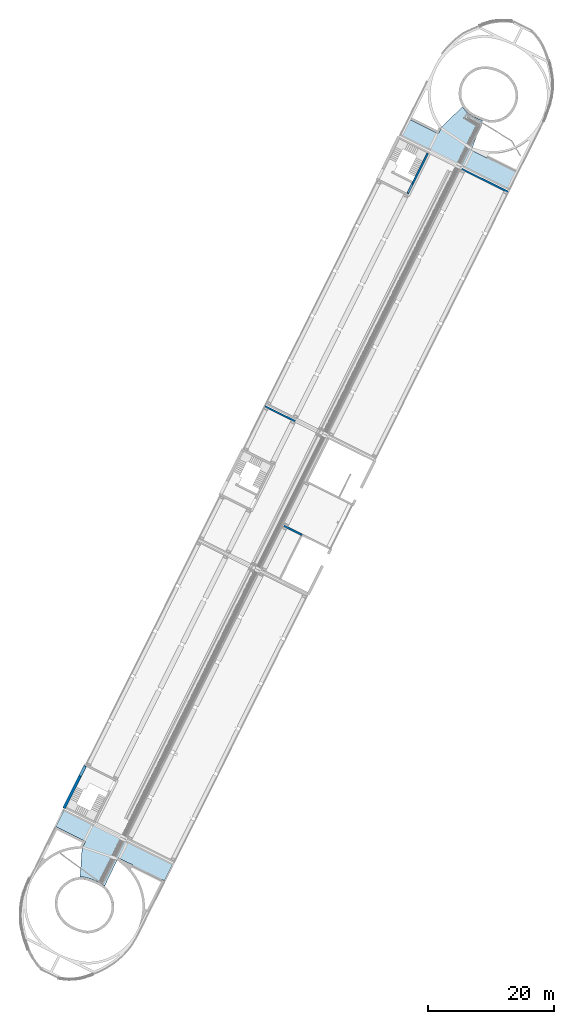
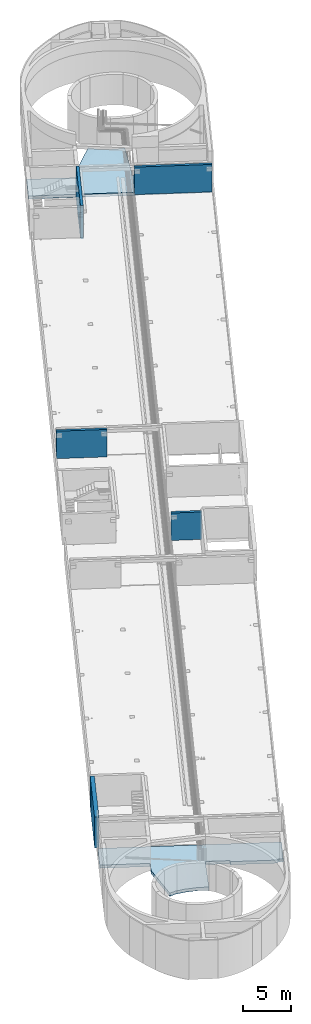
# One storey, part 12 of 47: 5 walls, 2 slabs.
"""IFC2X3 building model written with IfcOpenShell, lengths in metres."""

import ifcopenshell
import ifcopenshell.guid

model = None  # the IFC model being written
_history = None  # IfcOwnerHistory: only IFC2X3 demands one
_inside = {}  # id of a spatial element -> (the spatial element, [elements in it])
_under = {}  # id of a project, library or spatial element -> (it, [spatial elements below it])
_declared = {}  # id of a project -> (the project, [libraries it declares])
_typed = {}  # id of a type object -> (the type object, [elements of that type])
_made_of = {}  # id of a material, layer set ... -> (it, [elements and type objects made of it])


def new_model(schema):
    """Start an empty IFC model of exactly this schema.

    Asked for "IFC4X3", IfcOpenShell would pick the latest addendum, in which some entities
    have other attributes; the version numbers below select the first issue.
    IFC2X3 requires an IfcOwnerHistory on every rooted entity: one is made here for all.
    """
    global model, _history
    if schema == "IFC4X3":
        model = ifcopenshell.file(schema_version=(4, 3, 0, 0))
    else:
        model = ifcopenshell.file(schema=schema)
    _inside.clear()
    _under.clear()
    _declared.clear()
    _typed.clear()
    _made_of.clear()
    _history = None
    if model.schema == "IFC2X3":
        org = make("IfcOrganization", Name="unknown")
        user = make(
            "IfcPersonAndOrganization",
            ThePerson=make("IfcPerson", FamilyName="unknown"),
            TheOrganization=org,
        )
        app = make(
            "IfcApplication",
            ApplicationDeveloper=org,
            Version="unknown",
            ApplicationFullName="unknown",
            ApplicationIdentifier="unknown",
        )
        _history = make(
            "IfcOwnerHistory",
            OwningUser=user,
            OwningApplication=app,
            ChangeAction="ADDED",
            CreationDate=0,
        )
    return model


def make(cls, **values):
    """One entity of the class cls with the attributes given. An attribute that is None is left unset."""
    return model.create_entity(
        cls, **{name: value for name, value in values.items() if value is not None}
    )


def entity(cls, *values):
    """Any entity or typed value of the class cls, its attributes in the order of the schema. None: left unset."""
    e = model.create_entity(cls)
    for i, value in enumerate(values):
        if value is not None:
            e[i] = value
    return e


def rooted(cls, **values):
    """An entity with a GlobalId (a new one), such as an element, a storey or a relation."""
    return make(cls, GlobalId=ifcopenshell.guid.new(), OwnerHistory=_history, **values)


def si_unit(unit_type, name, prefix=None):
    """IfcSIUnit, for example si_unit("LENGTHUNIT", "METRE", prefix="MILLI")."""
    return make("IfcSIUnit", UnitType=unit_type, Prefix=prefix, Name=name)


def converted_unit(unit_type, name, factor, base, dimensions=None, offset=None):
    """IfcConversionBasedUnit, such as the inch: factor (a typed value) times the base unit."""
    return make(
        "IfcConversionBasedUnit"
        if offset is None
        else "IfcConversionBasedUnitWithOffset",
        ConversionOffset=offset,
        Dimensions=None
        if dimensions is None
        else entity("IfcDimensionalExponents", *dimensions),
        UnitType=unit_type,
        Name=name,
        ConversionFactor=make(
            "IfcMeasureWithUnit", ValueComponent=factor, UnitComponent=base
        ),
    )


def derived_unit(unit_type, elements):
    """IfcDerivedUnit: a product of units, each with its exponent."""
    return make(
        "IfcDerivedUnit",
        Elements=[
            make("IfcDerivedUnitElement", Unit=unit, Exponent=power)
            for unit, power in elements
        ],
        UnitType=unit_type,
    )


def assignment(units):
    """IfcUnitAssignment: the units of a project."""
    return None if units is None else make("IfcUnitAssignment", Units=units)


def point(xyz):
    """IfcCartesianPoint."""
    return None if xyz is None else make("IfcCartesianPoint", Coordinates=xyz)


def direction(xyz):
    """IfcDirection."""
    return None if xyz is None else make("IfcDirection", DirectionRatios=xyz)


def frame(location, z_axis=None, x_axis=None):
    """IfcAxis2Placement3D, a coordinate frame: its origin and axes. An axis left out is left unset."""
    return make(
        "IfcAxis2Placement3D",
        Location=point(location),
        Axis=direction(z_axis),
        RefDirection=direction(x_axis),
    )


def origin():
    """The frame at (0, 0, 0) with its axes left unset."""
    return frame((0.0, 0.0, 0.0))


def place(relative_to, where):
    """IfcLocalPlacement: puts the frame where relative to a parent placement (None: the world)."""
    return make(
        "IfcLocalPlacement", PlacementRelTo=relative_to, RelativePlacement=where
    )


def context(
    kind, dimensions, precision=None, world=None, true_north=None, identifier=None
):
    """IfcGeometricRepresentationContext, for example the 3D "Model" context."""
    return make(
        "IfcGeometricRepresentationContext",
        ContextIdentifier=identifier,
        ContextType=kind,
        CoordinateSpaceDimension=dimensions,
        Precision=precision,
        WorldCoordinateSystem=world,
        TrueNorth=true_north,
    )


def subcontext(parent, identifier, kind, view, scale=None):
    """IfcGeometricRepresentationSubContext, for example "Body" below "Model"."""
    return make(
        "IfcGeometricRepresentationSubContext",
        ContextIdentifier=identifier,
        ContextType=kind,
        ParentContext=parent,
        TargetScale=scale,
        TargetView=view,
    )


def project(units=None, contexts=None):
    """IfcProject with its units and contexts."""
    return rooted(
        "IfcProject",
        Name="project",
        RepresentationContexts=contexts,
        UnitsInContext=assignment(units),
    )


def spatial(cls, under=None, at=None, **own):
    """A site, building, storey or space (cls), placed at a placement, below another one or the project."""
    s = rooted(cls, ObjectPlacement=at, **own)
    if under is not None:
        _under.setdefault(under.id(), (under, []))[1].append(s)
    return s


def faces_of(points, faces, orient=None, outer=None):
    """IfcFace entities. A face is a list of loops; a loop is a list of indices into points, from 0.

    orient and outer hold one flag for each loop. By default every Orientation is true, the
    first loop of a face is its IfcFaceOuterBound and the others are IfcFaceBound.
    """
    made = []
    for i, loops in enumerate(faces):
        bounds = []
        for j, loop in enumerate(loops):
            is_outer = j == 0 if outer is None else outer[i][j]
            bounds.append(
                make(
                    "IfcFaceOuterBound" if is_outer else "IfcFaceBound",
                    Bound=make("IfcPolyLoop", Polygon=[points[k] for k in loop]),
                    Orientation=True if orient is None else orient[i][j],
                )
            )
        made.append(make("IfcFace", Bounds=bounds))
    return made


def faceted_brep(points, faces, orient=None, outer=None, voids=None):
    """IfcFacetedBrep: a solid bounded by flat faces; with voids (closed shells), ...WithVoids."""
    shared = [point(p) for p in points]
    hull = make("IfcClosedShell", CfsFaces=faces_of(shared, faces, orient, outer))
    if voids is None:
        return make("IfcFacetedBrep", Outer=hull)
    return make(
        "IfcFacetedBrepWithVoids",
        Outer=hull,
        Voids=[
            make(cls, CfsFaces=faces_of(shared, fs, o, b)) for cls, fs, o, b in voids
        ],
    )


def shape(context_of_items, identifier, shape_type, items):
    """IfcShapeRepresentation: the items that make up one representation, for example the "Body"."""
    return make(
        "IfcShapeRepresentation",
        ContextOfItems=context_of_items,
        RepresentationIdentifier=identifier,
        RepresentationType=shape_type,
        Items=items,
    )


def material(Name=None, Category=None):
    """IfcMaterial."""
    return make("IfcMaterial", Name=Name, Category=Category)


def layer(
    of_material, thickness, ventilated=None, Name=None, Category=None, Priority=None
):
    """IfcMaterialLayer: one layer of a wall or slab, of a material (None: an air gap)."""
    return make(
        "IfcMaterialLayer",
        Material=of_material,
        LayerThickness=thickness,
        IsVentilated=ventilated,
        Name=Name,
        Category=Category,
        Priority=Priority,
    )


def layer_set(layers, Name=None):
    """IfcMaterialLayerSet."""
    return make("IfcMaterialLayerSet", MaterialLayers=layers, LayerSetName=Name)


def made_of(thing, what):
    """Note that an element or type object is made of a material, layer set ...; save() writes the relation."""
    if what is not None:
        _made_of.setdefault(what.id(), (what, []))[1].append(thing)
    return thing


def type_object(cls, material=None, **own):
    """A type object (cls), such as IfcWallType, which elements share."""
    return made_of(rooted(cls, **own), material)


def element(
    cls,
    number,
    at=None,
    inside=None,
    cuts=None,
    type_object=None,
    material=None,
    context=None,
    identifier="Body",
    shape_type=None,
    held_by="IfcProductDefinitionShape",
    body=None,
    shapes=None,
    **own,
):
    """One element of the class cls, such as IfcWall. Its Tag is "e" and its number.

    at: its placement. inside: the storey or other place that contains it. cuts: it is an
    opening in that element (IfcRelVoidsElement). A single representation is given by context,
    identifier, shape_type and body (its items); several are given by shapes. held_by: the class
    of the entity that holds the representations. save() writes the other relations.
    """
    e = rooted(cls, Tag="e%d" % number, ObjectPlacement=at, **own)
    if body is not None:
        shapes = [shape(context, identifier, shape_type, body)]
    if shapes is not None:
        e.Representation = make(held_by, Representations=shapes)
    if inside is not None:
        _inside.setdefault(inside.id(), (inside, []))[1].append(e)
    if cuts is not None:
        rooted(
            "IfcRelVoidsElement", RelatingBuildingElement=cuts, RelatedOpeningElement=e
        )
    if type_object is not None:
        _typed.setdefault(type_object.id(), (type_object, []))[1].append(e)
    return made_of(e, material)


def aggregate(whole, parts):
    """IfcRelAggregates: a whole, such as a stair, and the parts it consists of."""
    return rooted("IfcRelAggregates", RelatingObject=whole, RelatedObjects=parts)


def save(model, path):
    """Write the relations noted so far, then the file.

    IfcRelAggregates (storeys below a building ...), IfcRelContainedInSpatialStructure (elements
    in a storey), IfcRelDefinesByType, IfcRelAssociatesMaterial and IfcRelDeclares: one each for
    every whole, place, type object, material and project.
    """
    for whole, parts in _under.values():
        aggregate(whole, parts)
    for where, things in _inside.values():
        rooted(
            "IfcRelContainedInSpatialStructure",
            RelatedElements=things,
            RelatingStructure=where,
        )
    for kind, things in _typed.values():
        rooted("IfcRelDefinesByType", RelatedObjects=things, RelatingType=kind)
    for what, things in _made_of.values():
        rooted("IfcRelAssociatesMaterial", RelatedObjects=things, RelatingMaterial=what)
    for by, libraries in _declared.values():
        rooted("IfcRelDeclares", RelatingContext=by, RelatedDefinitions=libraries)
    model.write(path)


model = new_model("IFC2X3")

# Units and contexts
model_context = context("Model", 3, precision=1e-05, world=origin(), true_north=direction((0.894925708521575, 0.446215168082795)))
context_of_model = context(None, 3, precision=1e-05, world=origin(), true_north=direction((0.894925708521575, 0.446215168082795)))
body_context = subcontext(model_context, "Body", "Model", "MODEL_VIEW")
ifc_project = project(units=[si_unit("LENGTHUNIT", "METRE"), si_unit("AREAUNIT", "SQUARE_METRE"), si_unit("VOLUMEUNIT", "CUBIC_METRE"), converted_unit("PLANEANGLEUNIT", "DEGREE", entity("IfcRatioMeasure", 0.0174532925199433), si_unit("PLANEANGLEUNIT", "RADIAN"), dimensions=[0, 0, 0, 0, 0, 0, 0]), si_unit("MASSUNIT", "GRAM", prefix="KILO"), si_unit("TIMEUNIT", "SECOND"), si_unit("FREQUENCYUNIT", "HERTZ"), si_unit("THERMODYNAMICTEMPERATUREUNIT", "DEGREE_CELSIUS"), derived_unit("THERMALTRANSMITTANCEUNIT", [(si_unit("MASSUNIT", "GRAM", prefix="KILO"), 1), (si_unit("THERMODYNAMICTEMPERATUREUNIT", "KELVIN"), -1), (si_unit("TIMEUNIT", "SECOND"), -3)]), derived_unit("VOLUMETRICFLOWRATEUNIT", [(si_unit("LENGTHUNIT", "METRE"), 3), (si_unit("TIMEUNIT", "SECOND"), -1)]), si_unit("ELECTRICCURRENTUNIT", "AMPERE"), si_unit("ELECTRICVOLTAGEUNIT", "VOLT"), si_unit("POWERUNIT", "WATT"), si_unit("FORCEUNIT", "NEWTON", prefix="KILO"), si_unit("ILLUMINANCEUNIT", "LUX"), si_unit("LUMINOUSFLUXUNIT", "LUMEN"), si_unit("LUMINOUSINTENSITYUNIT", "CANDELA"), si_unit("PRESSUREUNIT", "PASCAL")], contexts=[model_context, context_of_model])

# Site, building, storey
site_placement = place(None, frame((218.228324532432, 584.720189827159, 0.0), z_axis=(0.0, 0.0, 1.0), x_axis=(0.446215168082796, 0.894925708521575, 0.0)))
site = spatial("IfcSite", under=ifc_project, at=site_placement, Name="Default", CompositionType="ELEMENT")
building_placement = place(site_placement, origin())
building = spatial("IfcBuilding", under=site, at=building_placement, CompositionType="ELEMENT")
storey_placement = place(building_placement, frame((0.0, 0.0, 4.69)))
storey = spatial("IfcBuildingStorey", under=building, at=storey_placement, Name="1 - Piano Primo", CompositionType="ELEMENT", Elevation=4.69)

# Slabs
slab_1_placement = place(storey_placement, origin())
element("IfcSlab", 1, at=slab_1_placement, inside=storey, Name="Pavimento:In opera Cementizio - 40 cm", ObjectType="Pavimento:In opera Cementizio - 40 cm", PredefinedType="FLOOR", context=body_context, shape_type="Brep", body=[
    faceted_brep([(-60.6594493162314, -13.2010845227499, -0.400000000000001), (-60.6594493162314, 6.12047223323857, -0.400000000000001), (-60.6594493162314, 6.12047223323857, 0.0), (-60.6594493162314, -13.2010845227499, 0.0), (-63.7294493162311, 6.10459798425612, -0.400000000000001), (-63.7294493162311, 6.10459798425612, 0.0), (-63.7294493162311, -13.2010845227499, -0.400000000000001), (-63.7294493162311, -13.2010845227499, 0.0), (-69.1836388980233, -0.930237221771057, -0.1), (-67.70591129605, -0.318887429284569, -0.0646446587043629), (-66.3549528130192, 0.240016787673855, -0.0323223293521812), (-65.0039943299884, 0.798921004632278, 0.0), (-65.0039943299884, 0.798921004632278, -0.400000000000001), (-66.4817219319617, 0.18757121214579, -0.435355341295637), (-67.70591129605, -0.318887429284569, -0.464644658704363), (-69.1836388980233, -0.930237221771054, -0.500000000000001), (-63.7294493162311, 0.798921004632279, -0.400000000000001), (-63.7294493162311, 0.798921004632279, 0.0), (-63.7294493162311, -12.6510769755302, -0.400000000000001), (-63.7294493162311, -12.6510769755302, 0.0), (-63.7294493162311, -5.00107899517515, -0.400000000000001), (-63.7294493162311, -7.61107899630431, -0.400000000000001), (-63.7294493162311, -7.61107899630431, 0.0), (-63.7294493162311, -5.00107899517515, 0.0), (-63.9294493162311, -12.6516191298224, -0.400000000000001), (-63.9294493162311, -12.6516191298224, 0.0), (-63.9294493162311, -7.61107899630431, -0.400000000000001), (-63.9294493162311, -7.61107899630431, 0.0), (-64.1831034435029, -5.00107899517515, -0.400000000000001), (-64.1831034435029, -5.00107899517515, 0.0), (-64.1833621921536, -5.00284830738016, 0.0), (-64.1836209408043, -5.00461761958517, 0.0), (-64.183879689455, -5.00638693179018, 0.0), (-64.1841384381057, -5.00815624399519, 0.0), (-64.1841384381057, -5.00815624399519, -0.400000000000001), (-64.183879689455, -5.00638693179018, -0.400000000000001), (-64.1836209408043, -5.00461761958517, -0.400000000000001), (-64.1833621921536, -5.00284830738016, -0.400000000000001), (-65.9116934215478, -5.03542342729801, 0.0688685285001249), (-68.6994069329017, -5.07942381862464, 0.18), (-68.6994069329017, -5.07942381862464, -0.22), (-65.9116925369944, -5.03542341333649, -0.331131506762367), (-64.9013829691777, 0.0739210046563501, 0.0), (-64.798771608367, -0.651078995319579, 0.0), (-64.6961602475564, -1.37607899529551, 0.0), (-64.5935488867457, -2.10107899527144, 0.0), (-64.490937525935, -2.82607899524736, 0.0), (-64.3883261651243, -3.55107899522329, 0.0), (-64.2586447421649, -4.46734236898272, 0.0), (-64.2857148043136, -4.27607899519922, -0.400000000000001), (-64.3883261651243, -3.55107899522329, -0.400000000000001), (-64.490937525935, -2.82607899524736, -0.400000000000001), (-64.5935488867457, -2.10107899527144, -0.400000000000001), (-64.6961602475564, -1.37607899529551, -0.400000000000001), (-64.7987716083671, -0.651078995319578, -0.400000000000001), (-64.9013829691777, 0.073921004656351, -0.400000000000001), (-68.6269852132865, -4.43225886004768, -0.261818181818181), (-68.6269852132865, -4.43225886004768, 0.138181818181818), (-68.6149244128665, -4.10698256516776, 0.117272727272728), (-68.6571426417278, -2.80714464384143, -0.366363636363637), (-68.6510702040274, -3.13303112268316, 0.0545454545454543), (-68.6752350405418, -2.80869641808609, 0.0336363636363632), (-68.6632126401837, -4.75584010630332, 0.159090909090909), (-68.6632126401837, -4.75584010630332, -0.240909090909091), (-68.6435820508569, -3.05078761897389, -0.350681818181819), (-68.6028070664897, -3.78170873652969, 0.0963636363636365), (-68.6028070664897, -3.78170873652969, -0.303636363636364), (-68.6149244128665, -4.10698256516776, -0.282727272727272), (-68.7772714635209, -2.16767763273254, -0.408181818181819), (-68.6993333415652, -2.48435350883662, 0.0127272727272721), (-68.7558636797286, -2.21159054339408, -0.00516746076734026), (-68.6299748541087, -3.29442669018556, -0.335), (-68.6144974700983, -3.5724493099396, -0.317105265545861), (-68.7172245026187, -2.4874130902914, -0.387272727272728), (-68.7983668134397, -2.00628206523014, -0.0186363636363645), (-68.8974002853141, -1.52821062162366, -0.450000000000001), (-68.8373416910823, -1.8479447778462, -0.42909090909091), (-68.8123574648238, -1.93882210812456, -0.0230621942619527), (-68.6269653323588, -3.45737129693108, 0.0754545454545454), (-68.8974002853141, -1.52821062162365, -0.0500000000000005), (-68.9829502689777, -1.32422028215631, -0.466666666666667), (-68.9652778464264, -1.37693397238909, -0.0625000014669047), (-69.0784062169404, -1.12480582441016, -0.0833333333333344), (-69.1083809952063, -1.07798102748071, -0.487499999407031), (-66.4668760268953, -4.49601256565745, 0.0577118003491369), (-66.4092345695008, -4.7671776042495, 0.0722136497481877), (-66.3999694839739, -4.6367668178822, 0.0638636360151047), (-66.4212817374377, -4.88803025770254, 0.0799693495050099), (-65.8741035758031, -4.5345444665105, 0.0368690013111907), (-66.3793860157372, -4.39514074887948, 0.047885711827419), (-67.5208732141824, -0.705445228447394, -0.0323223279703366), (-66.9387338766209, -0.357494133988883, -0.0248463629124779), (-66.3805214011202, -0.0238443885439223, -0.0176776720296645), (-68.854878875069, -1.73351636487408, -0.0365310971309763), (-66.53925660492, -2.73786349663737, 0.0178446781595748), (-66.8511166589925, -2.35896729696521, 0.0118948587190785), (-66.3407740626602, -3.13498589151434, 0.0229588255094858), (-66.7039224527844, -1.71151973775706, -0.000302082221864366), (-66.9586358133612, -1.38542837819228, -0.00814281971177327), (-66.9679430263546, -0.969724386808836, -0.015744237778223), (-66.6098375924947, -3.54520615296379, 0.0350728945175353), (-66.4901370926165, -3.93903601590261, 0.0410963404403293), (-66.4668760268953, -4.49601256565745, -0.342288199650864), (-66.3999694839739, -4.6367668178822, -0.336136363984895), (-66.4092345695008, -4.7671776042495, -0.327786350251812), (-66.4212817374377, -4.88803025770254, -0.32003065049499), (-66.406547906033, -4.38764698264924, -0.351522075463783), (-65.8741035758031, -4.5345444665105, -0.363130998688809), (-66.2624337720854, 0.0467378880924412, -0.416161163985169), (-66.9387338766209, -0.357494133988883, -0.424846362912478), (-67.5208732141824, -0.705445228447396, -0.432322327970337), (-66.7414801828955, -2.88160555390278, -0.377525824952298), (-66.711019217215, -2.48481555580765, -0.38597672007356), (-66.6439217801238, -3.74360384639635, -0.3598518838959), (-66.5232544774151, -2.04511434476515, -0.394284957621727), (-66.7002160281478, -1.47920766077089, -0.404151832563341), (-67.1238500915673, -0.862400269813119, -0.420315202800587), (-66.5779822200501, -3.38038737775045, -0.368986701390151), (-66.7137417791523, -1.07003747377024, -0.410649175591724)], [[[0, 1, 2, 3]], [[1, 4, 5, 2]], [[6, 0, 3, 7]], [[8, 9, 10, 11, 12, 13, 14, 15]], [[16, 12, 11, 17]], [[4, 16, 17, 5]], [[18, 6, 7, 19]], [[20, 21, 22, 23]], [[24, 18, 19, 25]], [[26, 24, 25, 27]], [[21, 26, 27, 22]], [[28, 20, 23, 29]], [[29, 30, 31, 32, 33, 34, 35, 36, 37, 28]], [[33, 38, 39, 40, 41, 34]], [[17, 11, 42, 43, 44, 45, 46, 47, 48, 29, 23, 22, 27, 25, 19, 7, 3, 2, 5]], [[1, 0, 6, 18, 24, 26, 21, 20, 28, 49, 50, 51, 52, 53, 54, 55, 12, 16, 4]], [[56, 57, 58]], [[59, 60, 61]], [[40, 39, 62]], [[57, 56, 63]], [[60, 59, 64]], [[65, 66, 67]], [[68, 69, 70]], [[65, 71, 72]], [[69, 68, 73]], [[74, 75, 76]], [[75, 74, 77]], [[71, 65, 78]], [[79, 80, 75]], [[80, 79, 81]], [[8, 15, 82]], [[82, 15, 83]], [[65, 58, 84]], [[85, 86, 57]], [[85, 62, 87]], [[58, 86, 84]], [[86, 58, 57]], [[84, 30, 29]], [[29, 88, 89, 84]], [[31, 86, 85]], [[31, 30, 86]], [[32, 38, 33]], [[87, 32, 85]], [[85, 57, 62]], [[87, 39, 38]], [[32, 31, 85]], [[30, 84, 86]], [[39, 87, 62]], [[38, 32, 87]], [[8, 82, 10, 9]], [[81, 79, 90, 91, 92]], [[11, 10, 92]], [[92, 82, 81]], [[82, 92, 10]], [[93, 91, 90, 79]], [[42, 11, 92, 91]], [[94, 61, 60]], [[61, 94, 95]], [[47, 46, 96]], [[97, 69, 95]], [[77, 98, 99]], [[96, 100, 47]], [[43, 42, 99]], [[99, 98, 43]], [[77, 99, 93]], [[93, 99, 91]], [[91, 99, 42]], [[98, 77, 74]], [[44, 97, 95]], [[97, 43, 98]], [[97, 98, 70]], [[69, 97, 70]], [[43, 97, 44]], [[101, 48, 100]], [[100, 48, 47]], [[101, 65, 89]], [[48, 89, 88, 29]], [[94, 60, 96]], [[96, 46, 94]], [[100, 60, 78]], [[60, 100, 96]], [[100, 78, 101]], [[46, 45, 94]], [[95, 94, 45]], [[65, 101, 78]], [[89, 48, 101]], [[95, 45, 44]], [[61, 95, 69]], [[102, 67, 66]], [[56, 103, 104]], [[105, 63, 104]], [[102, 103, 67]], [[56, 67, 103]], [[28, 37, 102]], [[102, 106, 107, 28]], [[104, 103, 36]], [[103, 37, 36]], [[34, 41, 35]], [[104, 35, 105]], [[63, 56, 104]], [[41, 40, 105]], [[104, 36, 35]], [[103, 102, 37]], [[102, 66, 106]], [[63, 105, 40]], [[105, 35, 41]], [[13, 12, 108]], [[80, 83, 13]], [[80, 108, 109, 110, 75]], [[83, 15, 14, 13]], [[80, 13, 108]], [[51, 111, 112]], [[71, 113, 72]], [[49, 28, 107, 106]], [[114, 68, 115]], [[116, 75, 110, 109, 108, 12]], [[116, 76, 75]], [[112, 52, 51]], [[113, 71, 117]], [[106, 66, 72]], [[113, 117, 50]], [[106, 113, 49]], [[72, 113, 106]], [[49, 113, 50]], [[51, 50, 117]], [[51, 117, 111]], [[59, 111, 64]], [[64, 111, 117]], [[117, 71, 64]], [[52, 114, 53]], [[54, 115, 118]], [[112, 111, 59]], [[112, 59, 73]], [[73, 114, 112]], [[55, 54, 118]], [[115, 68, 118]], [[116, 12, 55]], [[118, 76, 116]], [[76, 118, 68]], [[73, 68, 114]], [[115, 54, 53]], [[118, 116, 55]], [[112, 114, 52]], [[53, 114, 115]], [[56, 58, 65]], [[59, 61, 69]], [[40, 62, 57]], [[57, 63, 40]], [[60, 64, 71]], [[65, 67, 56]], [[68, 70, 74]], [[65, 72, 66]], [[69, 73, 59]], [[74, 76, 68]], [[75, 77, 93, 79]], [[71, 78, 60]], [[80, 81, 82]], [[82, 83, 80]], [[84, 89, 65]], [[98, 74, 70]]]),
])
slab_2_placement = place(storey_placement, origin())
element("IfcSlab", 2, at=slab_2_placement, inside=storey, Name="Pavimento:In opera Cementizio - 40 cm", ObjectType="Pavimento:In opera Cementizio - 40 cm", PredefinedType="FLOOR", context=body_context, shape_type="Brep", body=[
    faceted_brep([(58.9659369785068, 6.11892100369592, -0.400000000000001), (58.9659369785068, -13.2010789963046, -0.400000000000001), (58.9659369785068, -13.2010789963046, 0.0), (58.9659369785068, 6.11892100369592, 0.0), (62.0359369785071, -5.00107899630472, -0.400000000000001), (62.514677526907, -5.00107899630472, -0.400000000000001), (62.514677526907, -5.00107899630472, 0.0), (62.0359369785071, -5.00107899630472, 0.0), (62.0359369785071, -7.78107899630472, -0.400000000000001), (62.0359369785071, -7.78107899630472, 0.0), (62.0359369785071, 0.798921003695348, -0.400000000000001), (62.0359369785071, 6.10717514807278, -0.400000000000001), (62.0359369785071, 6.10717514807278, 0.0), (62.0359369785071, 0.798921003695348, 0.0), (62.0359369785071, -13.2010789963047, -0.400000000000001), (62.0359369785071, -12.8010789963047, -0.400000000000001), (62.0359369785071, -12.8010789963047, 0.0), (62.0359369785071, -13.2010789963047, 0.0), (63.2724481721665, 0.79892100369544, -0.400000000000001), (63.2724481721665, 0.79892100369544, 0.0), (62.4360591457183, -7.78107899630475, -0.400000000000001), (62.4360591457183, -7.78107899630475, 0.0), (62.435933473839, -12.8010789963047, -0.400000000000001), (62.435933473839, -12.8010789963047, 0.0), (63.6539762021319, -4.48532101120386, 0.0), (64.5951258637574, -4.05926464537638, 0.0), (62.6093988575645, -4.2760789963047, 0.0), (62.7041201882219, -3.55107899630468, 0.0), (62.7988415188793, -2.82607899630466, 0.0), (62.8935628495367, -2.10107899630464, 0.0), (62.9882841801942, -1.37607899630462, 0.0), (63.0830055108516, -0.651078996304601, 0.0), (63.177726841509, 0.0739210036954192, 0.0), (63.177726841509, 0.0739210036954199, -0.400000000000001), (63.0830055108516, -0.651078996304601, -0.400000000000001), (62.9882841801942, -1.37607899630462, -0.400000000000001), (62.8935628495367, -2.10107899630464, -0.400000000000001), (62.7988415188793, -2.82607899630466, -0.400000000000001), (62.7041201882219, -3.55107899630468, -0.400000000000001), (62.6093988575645, -4.2760789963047, -0.400000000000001), (64.5951258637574, -4.05926464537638, -0.400000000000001), (63.6539762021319, -4.48532101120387, -0.400000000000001), (67.588310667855, -0.696309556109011, -0.130000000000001), (67.588310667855, -0.696309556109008, -0.530000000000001), (67.0643185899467, -0.514772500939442, -0.51421660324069), (66.5403265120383, -0.3332354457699, -0.498433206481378), (65.4923423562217, 0.0298386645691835, -0.466866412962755), (64.3823952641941, 0.414379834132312, -0.433433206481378), (64.3823952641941, 0.414379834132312, -0.0334332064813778), (65.4923423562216, 0.0298386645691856, -0.0668664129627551), (66.5403265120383, -0.333235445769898, -0.0984332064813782), (67.0643185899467, -0.51477250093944, -0.114216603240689), (67.3964206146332, -1.04453367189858, -0.498000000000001), (67.4550634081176, -0.938136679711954, -0.50777777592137), (67.5563967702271, -0.757471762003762, -0.124444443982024), (67.5244828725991, -0.818633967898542, -0.118888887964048), (67.4606550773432, -0.940958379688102, -0.107777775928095), (67.3866148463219, -1.08285467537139, -0.0948888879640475), (67.1697365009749, -1.59580155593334, -0.450000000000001), (67.3125603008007, -1.22474470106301, -0.0820000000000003), (67.2689296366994, -1.33812753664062, -0.0722222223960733), (67.1959747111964, -1.53199820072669, -0.45555555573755), (67.2222129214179, -1.46819484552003, -0.4611111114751), (67.2746893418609, -1.34058813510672, -0.472222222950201), (67.3355619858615, -1.19256436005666, -0.485111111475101), (67.1697365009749, -1.59580155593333, -0.0500000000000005), (67.0099075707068, -2.28811233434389, -0.425), (67.0499007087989, -2.11504041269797, -0.431250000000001), (67.1297912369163, -1.76888117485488, -0.0437500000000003), (67.0898459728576, -1.94196079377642, -0.0375000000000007), (67.0499007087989, -2.11504041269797, -0.031250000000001), (66.9446692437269, -2.99563156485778, -0.400000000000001), (67.0099075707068, -2.28811233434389, -0.0250000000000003), (66.9909391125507, -2.49420147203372, -0.0177180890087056), (66.958296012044, -2.84795723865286, -0.405218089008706), (66.9719227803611, -2.70028291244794, -0.410436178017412), (66.9909391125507, -2.49420147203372, -0.417718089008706), (66.9446692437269, -2.99563156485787, 0.0), (66.9738862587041, -3.76630775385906, -0.375000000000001), (66.967394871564, -3.5950463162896, -0.380555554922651), (66.9487273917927, -3.10266991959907, 0.00347222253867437), (66.9527855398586, -3.20970827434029, 0.00694444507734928), (66.9609018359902, -3.42378498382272, 0.0138888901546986), (66.967394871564, -3.5950463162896, 0.0194444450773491), (67.0427832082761, -4.53445398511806, -0.350000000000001), (66.9738862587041, -3.76630775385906, 0.0249999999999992), (66.9891979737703, -3.93700683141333, 0.0305555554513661), (67.0236456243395, -4.32107999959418, -0.356944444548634), (67.0140768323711, -4.21439300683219, -0.360416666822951), (67.0045080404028, -4.1077060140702, -0.363888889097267), (66.9891979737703, -3.93700683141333, -0.369444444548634), (63.6792090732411, -4.88107306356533, -0.387141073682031), (64.8437406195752, -4.76106713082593, -0.374282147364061), (65.9432619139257, -4.64776055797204, -0.362141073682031), (67.0427832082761, -4.53445398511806, 0.0499999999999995), (65.9432619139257, -4.64776055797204, 0.0378589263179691), (64.8437406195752, -4.76106713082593, 0.0257178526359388), (63.6792090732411, -4.88107306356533, 0.0128589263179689), (66.4068206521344, -3.23911443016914, 0.0), (65.8689720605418, -3.48259729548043, 0.0), (64.7932748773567, -3.96956302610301, 0.0), (64.744975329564, -4.39443457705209, 0.0128489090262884), (67.0236456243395, -4.32107999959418, 0.0430555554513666), (67.0140768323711, -4.21439300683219, 0.0395833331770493), (67.0045080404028, -4.1077060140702, 0.0361111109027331), (64.744975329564, -4.39443457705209, -0.387151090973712), (64.7932748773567, -3.96956302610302, -0.400000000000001), (65.8689720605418, -3.48259729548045, -0.400000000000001), (66.4068206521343, -3.23911443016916, -0.400000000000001), (66.9487273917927, -3.10266991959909, -0.396527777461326), (66.9527855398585, -3.2097082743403, -0.393055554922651), (66.9609018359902, -3.42378498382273, -0.386111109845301), (66.958296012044, -2.84795723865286, -0.0052180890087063), (64.98286078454, -1.96954777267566, -0.0140625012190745), (64.9465469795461, -2.42818064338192, -0.0110128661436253), (65.0319281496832, -2.95039246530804, -0.00763356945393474), (66.9719227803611, -2.70028291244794, -0.0104361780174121), (64.8696749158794, -3.4100591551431, -0.00405050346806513), (65.114613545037, -1.07074964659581, -0.0203125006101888), (65.2210923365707, -0.398440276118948, -0.0250000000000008), (64.996194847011, -1.50699040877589, -0.016751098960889), (66.6965638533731, -1.30505652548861, -0.0439294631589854), (66.2233912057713, -1.01431149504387, -0.0378589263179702), (65.2770459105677, -0.432821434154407, -0.0257178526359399), (64.2747470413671, 0.183049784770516, -0.0128589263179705), (65.4198583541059, -0.221435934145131, -0.0471527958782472), (67.1945347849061, -1.53138305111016, -0.0555555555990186), (67.2193330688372, -1.46696454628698, -0.0611111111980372), (64.98286078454, -1.96954777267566, -0.414062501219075), (65.0319281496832, -2.95039246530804, -0.407633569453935), (64.9465469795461, -2.42818064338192, -0.411012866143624), (64.8696749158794, -3.4100591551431, -0.404050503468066), (65.114613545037, -1.07074964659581, -0.420312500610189), (65.2210923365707, -0.398440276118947, -0.425), (64.996194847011, -1.50699040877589, -0.416751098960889), (67.0898459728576, -1.94196079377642, -0.437500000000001), (67.1297912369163, -1.76888117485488, -0.44375), (65.2770459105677, -0.432821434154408, -0.425717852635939), (66.2233912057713, -1.01431149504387, -0.43785892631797), (66.6965638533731, -1.30505652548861, -0.443929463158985), (64.2747470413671, 0.183049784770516, -0.41285892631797), (67.5216870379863, -0.817223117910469, -0.518888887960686), (67.5549988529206, -0.756766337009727, -0.524444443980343), (65.422282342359, -0.21622686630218, -0.44761524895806)], [[[0, 1, 2, 3]], [[4, 5, 6, 7]], [[8, 4, 7, 9]], [[10, 11, 12, 13]], [[14, 15, 16, 17]], [[11, 0, 3, 12]], [[18, 10, 13, 19]], [[1, 14, 17, 2]], [[20, 8, 9, 21]], [[22, 20, 21, 23]], [[15, 22, 23, 16]], [[16, 23, 21, 9, 7, 6, 24, 25, 26, 27, 28, 29, 30, 31, 32, 19, 13, 12, 3, 2, 17]], [[1, 0, 11, 10, 18, 33, 34, 35, 36, 37, 38, 39, 40, 41, 5, 4, 8, 20, 22, 15, 14]], [[42, 43, 44, 45, 46, 47, 18, 19, 48, 49, 50, 51]], [[42, 52, 53]], [[52, 42, 54, 55, 56, 57]], [[58, 59, 60]], [[59, 58, 61, 62, 63, 64]], [[65, 66, 67]], [[66, 65, 68, 69, 70]], [[71, 72, 73]], [[72, 71, 74, 75, 76]], [[77, 78, 79]], [[78, 77, 80, 81, 82, 83]], [[84, 85, 86]], [[85, 84, 87, 88, 89, 90]], [[6, 5, 91, 92, 93, 84, 94, 95, 96, 97]], [[80, 77, 98, 99, 100, 25, 24, 83, 82, 81]], [[6, 97, 101]], [[85, 101, 86]], [[96, 95, 94, 102, 103, 104, 86, 97]], [[6, 101, 24]], [[101, 83, 24]], [[86, 101, 97]], [[101, 85, 83]], [[90, 105, 78]], [[105, 91, 5]], [[79, 41, 40, 106, 107, 108, 71, 109, 110, 111]], [[41, 105, 5]], [[88, 87, 84, 93, 92, 91, 90, 89]], [[41, 79, 105]], [[91, 105, 90]], [[79, 78, 105]], [[112, 25, 100, 99, 98, 77]], [[113, 30, 29]], [[114, 115, 73]], [[116, 115, 117]], [[28, 27, 115]], [[28, 114, 29]], [[118, 32, 31]], [[118, 119, 32]], [[30, 113, 120]], [[120, 70, 69]], [[116, 117, 112]], [[118, 120, 69]], [[117, 27, 26]], [[112, 117, 25]], [[25, 117, 26]], [[117, 115, 27]], [[116, 73, 115]], [[113, 114, 72]], [[29, 114, 113]], [[115, 114, 28]], [[73, 72, 114]], [[113, 72, 70]], [[118, 69, 68]], [[68, 65, 121, 122, 123, 119]], [[32, 119, 124, 19]], [[31, 30, 120]], [[120, 113, 70]], [[31, 120, 118]], [[68, 119, 118]], [[56, 55, 54, 42, 51, 50, 49, 48, 57]], [[123, 60, 59]], [[124, 125, 19]], [[59, 124, 119, 123]], [[126, 127, 60, 123, 122, 121, 65]], [[57, 125, 59]], [[48, 19, 125]], [[59, 125, 124]], [[48, 125, 57]], [[74, 71, 108, 107, 106, 40]], [[36, 35, 128]], [[76, 129, 130]], [[131, 129, 75]], [[129, 38, 37]], [[36, 130, 37]], [[34, 33, 132]], [[33, 133, 132]], [[134, 128, 35]], [[135, 67, 134]], [[74, 131, 75]], [[135, 134, 132]], [[39, 38, 131]], [[40, 131, 74]], [[39, 131, 40]], [[38, 129, 131]], [[129, 76, 75]], [[66, 130, 128]], [[128, 130, 36]], [[37, 130, 129]], [[130, 66, 76]], [[67, 66, 128]], [[136, 135, 132]], [[136, 133, 137, 138, 139, 58]], [[33, 18, 140, 133]], [[134, 35, 34]], [[67, 128, 134]], [[132, 134, 34]], [[132, 133, 136]], [[53, 52, 46]], [[141, 53, 46, 45, 44, 43, 142]], [[47, 46, 52]], [[143, 47, 52]], [[62, 61, 58, 139, 138, 137, 133, 140, 64, 63]], [[140, 143, 64]], [[18, 47, 143]], [[64, 143, 52]], [[140, 18, 143]], [[42, 53, 141, 142, 43]], [[52, 57, 59]], [[58, 60, 127, 126, 65]], [[59, 64, 52]], [[65, 67, 135, 136, 58]], [[66, 70, 72]], [[71, 73, 116, 112, 77]], [[72, 76, 66]], [[77, 79, 111, 110, 109, 71]], [[78, 83, 85]], [[84, 86, 104, 103, 102, 94]], [[85, 90, 78]]]),
])

# Walls
ifc_material_1 = material(Name="Alluminio")
ifc_layer_1 = layer(ifc_material_1, 0.15)
ifc_material_2 = material(Name="Default - Calcestruzzo")
ifc_layer_2 = layer(ifc_material_2, 0.3)
ifc_material_3 = material(Name="Intonaco - Bianco")
ifc_layer_3 = layer(ifc_material_3, 0.02)
ifc_layer_set_1 = layer_set([ifc_layer_1, ifc_layer_2, ifc_layer_3], Name="Muro di base:Setto CA rivestito int-est 47 cm")
wall_type_1 = type_object("IfcWallType", Name="Muro di base:Setto CA rivestito int-est 47 cm", PredefinedType="STANDARD", material=ifc_layer_set_1)
wall_1_placement = place(storey_placement, frame((-60.5294493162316, 6.22392100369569, 0.0)))
element("IfcWall", 3, at=wall_1_placement, inside=storey, type_object=wall_type_1, Name="Muro di base:Setto CA rivestito int-est 47 cm", ObjectType="Muro di base:Setto CA rivestito int-est 47 cm", context=body_context, shape_type="Brep", body=[
    faceted_brep([(0.0, -0.235000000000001, 0.0), (0.309999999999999, -0.235000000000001, 0.0), (7.51999999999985, -0.235000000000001, 0.0), (7.51999999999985, -0.235000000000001, 3.51), (7.50999999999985, -0.235000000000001, 3.51), (7.50999999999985, -0.235000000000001, 0.159999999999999), (5.70999999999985, -0.235000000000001, 0.159999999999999), (5.70999999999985, -0.235000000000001, 3.51), (4.54, -0.235000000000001, 3.51), (4.54, -0.235000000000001, 3.92), (0.309999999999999, -0.235000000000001, 3.92), (0.0, -0.235000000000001, 3.92), (7.51999999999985, 0.235, 0.0), (0.0, 0.235, 0.0), (0.0, 0.235, 3.92), (7.51999999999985, 0.235, 3.92), (7.50999999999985, 0.235, 0.159999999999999), (7.50999999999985, 0.235, 3.51), (5.70999999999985, 0.235, 3.51), (5.70999999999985, 0.235, 0.159999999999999), (4.54, -0.22499999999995, 3.92), (7.51999999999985, -0.22499999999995, 3.92), (7.51999999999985, -0.22499999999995, 3.51), (7.50999999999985, -0.22499999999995, 3.51), (5.70999999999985, -0.22499999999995, 3.51), (4.54, -0.22499999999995, 3.51)], [[[0, 1, 2, 3, 4, 5, 6, 7, 8, 9, 10, 11]], [[12, 13, 14, 15], [16, 17, 18, 19]], [[2, 1, 0, 13, 12]], [[15, 14, 11, 10, 9, 20, 21]], [[13, 0, 11, 14]], [[2, 12, 15, 21, 22, 3]], [[5, 4, 23, 17, 16]], [[6, 5, 16, 19]], [[7, 6, 19, 18, 24]], [[18, 17, 23, 24]], [[24, 25, 8, 7]], [[25, 20, 9, 8]], [[20, 25, 24, 23, 22, 21]], [[22, 23, 4, 3]]]),
])
ifc_layer_4 = layer(ifc_material_2, 0.3)
ifc_layer_5 = layer(ifc_material_3, 0.01)
ifc_layer_set_2 = layer_set([ifc_layer_4, ifc_layer_5], Name="Muro di base:Setto CA rivestito int - 31 cm")
wall_type_2 = type_object("IfcWallType", Name="Muro di base:Setto CA rivestito int - 31 cm", PredefinedType="STANDARD", material=ifc_layer_set_2)
wall_2_placement = place(storey_placement, frame((58.5259369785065, 0.953921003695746, -0.400000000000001), z_axis=(0.0, 0.0, 1.0), x_axis=(-1.0, 0.0, 0.0)))
element("IfcWall", 4, at=wall_2_placement, inside=storey, type_object=wall_type_2, Name="Muro di base:Setto CA rivestito int - 31 cm", ObjectType="Muro di base:Setto CA rivestito int - 31 cm", context=body_context, shape_type="Brep", body=[
    faceted_brep([(0.0, -0.155, 0.0), (7.20999999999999, -0.155, 0.0), (7.20999999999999, -0.155, 3.91), (4.24016198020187, -0.155, 3.91), (4.22999999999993, -0.155, 3.91), (4.22999999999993, -0.155, 4.32), (0.0, -0.155, 4.32), (5.47999999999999, -0.155, 0.400000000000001), (5.47999999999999, -0.155, 2.55), (7.07999999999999, -0.155, 2.55), (7.07999999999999, -0.155, 0.400000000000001), (7.20999999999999, 0.155, 0.0), (0.0, 0.155, 0.0), (0.0, 0.155, 0.400000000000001), (0.0, 0.155, 4.32), (5.47999999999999, 0.155, 4.32), (7.07999999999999, 0.155, 4.32), (7.20999999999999, 0.155, 4.32), (7.20999999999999, 0.155, 0.4), (5.47999999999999, 0.155, 2.55), (5.47999999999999, 0.155, 0.400000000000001), (7.07999999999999, 0.155, 0.400000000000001), (7.07999999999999, 0.155, 2.55), (4.22999999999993, -0.144999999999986, 4.32), (7.20999999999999, -0.144999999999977, 4.32), (7.20999999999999, -0.144999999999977, 3.91), (4.22999999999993, -0.144999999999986, 3.91)], [[[0, 1, 2, 3, 4, 5, 6], [7, 8, 9, 10]], [[11, 12, 13, 14, 15, 16, 17, 18], [19, 20, 21, 22]], [[1, 0, 12, 11]], [[17, 16, 15, 14, 6, 5, 23, 24]], [[1, 11, 18, 17, 24, 25, 2]], [[12, 0, 6, 14, 13]], [[20, 19, 8, 7]], [[21, 20, 7, 10]], [[22, 21, 10, 9]], [[19, 22, 9, 8]], [[26, 4, 3, 2, 25]], [[26, 25, 24, 23]], [[4, 26, 23, 5]]]),
])
ifc_layer_6 = layer(ifc_material_2, 0.3)
ifc_layer_set_3 = layer_set([ifc_layer_6], Name="Muro di base:Setto CA - 30 cm")
wall_type_3 = type_object("IfcWallType", Name="Muro di base:Setto CA - 30 cm", PredefinedType="STANDARD", material=ifc_layer_set_3)
wall_3_placement = place(storey_placement, frame((-4.73437167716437, -5.00107899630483, 0.0), z_axis=(0.0, 0.0, 1.0), x_axis=(0.0, -1.0, 0.0)))
element("IfcWall", 5, at=wall_3_placement, inside=storey, type_object=wall_type_3, Name="Muro di base:Setto CA - 30 cm", ObjectType="Muro di base:Setto CA - 30 cm", context=body_context, shape_type="Brep", body=[
    faceted_brep([(0.0, -0.15, 0.0), (3.09999999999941, -0.15, 0.0), (3.24999999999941, -0.15, 0.0), (3.24999999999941, -0.15, 3.52), (3.09999999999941, -0.15, 3.52), (0.649999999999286, -0.15, 3.52), (0.649999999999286, -0.15, 3.26), (0.0, -0.15, 3.26), (3.24999999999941, 0.15, 0.0), (0.0, 0.15, 0.0), (0.0, 0.15, 3.52), (3.09999999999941, 0.15, 3.52), (3.24999999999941, 0.15, 3.52), (0.0, -0.143586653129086, 3.26), (0.0, -0.143586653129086, 3.52), (0.649999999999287, -0.143586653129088, 3.52), (0.649999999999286, -0.143586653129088, 3.26)], [[[0, 1, 2, 3, 4, 5, 6, 7]], [[8, 9, 10, 11, 12]], [[2, 1, 0, 9, 8]], [[3, 2, 8, 12]], [[10, 9, 0, 7, 13, 14]], [[3, 12, 11, 4]], [[11, 10, 14, 15, 5, 4]], [[16, 15, 14, 13]], [[15, 16, 6, 5]], [[16, 13, 7, 6]]]),
])
wall_type_4 = type_object("IfcWallType", Name="Setto C.a.10:Setto C.a.", PredefinedType="NOTDEFINED", material=ifc_material_2)
wall_4_placement = place(storey_placement, frame((58.5359369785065, -13.2010789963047, 0.0), z_axis=(0.0, 0.0, 1.0), x_axis=(0.0, 1.0, 0.0)))
element("IfcWall", 6, at=wall_4_placement, inside=storey, type_object=wall_type_4, material=ifc_material_2, Name="Setto C.a.10:Setto C.a.", ObjectType="Setto C.a.10:Setto C.a.", context=body_context, shape_type="Brep", body=[
    faceted_brep([(8.19999999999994, -0.300000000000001, 3.52), (8.19999999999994, 0.0, 3.52), (0.600000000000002, 0.0, 3.52), (0.600000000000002, -0.000388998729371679, 3.52), (0.0, -0.000388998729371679, 3.52), (0.0, -0.300000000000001, 3.52), (8.19999999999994, -0.300000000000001, 0.0), (0.0, -0.300000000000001, 0.0), (0.0, 0.0, 0.0), (8.19999999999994, 0.0, 0.0), (0.0, 0.0, 3.26), (0.600000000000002, 0.0, 3.26), (0.0, -0.000388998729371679, 3.26), (0.600000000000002, -0.000388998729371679, 3.26)], [[[0, 1, 2, 3, 4, 5]], [[6, 7, 8, 9]], [[1, 0, 6, 9]], [[9, 8, 10, 11, 2, 1]], [[8, 7, 5, 4, 12, 10]], [[0, 5, 7, 6]], [[13, 12, 4, 3]], [[12, 13, 11, 10]], [[13, 3, 2, 11]]]),
])
wall_type_5 = type_object("IfcWallType", Name="Setto C.a.17:Setto C.a.", PredefinedType="NOTDEFINED", material=ifc_material_2)
wall_5_placement = place(storey_placement, frame((10.7942149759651, 0.798921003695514, 0.0), z_axis=(0.0, 0.0, 1.0), x_axis=(0.0, 1.0, 0.0)))
element("IfcWall", 7, at=wall_5_placement, inside=storey, type_object=wall_type_5, material=ifc_material_2, Name="Setto C.a.17:Setto C.a.", ObjectType="Setto C.a.17:Setto C.a.", context=body_context, shape_type="Brep", body=[
    faceted_brep([(0.0, -0.300000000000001, 3.52), (5.32000000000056, -0.300000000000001, 3.52), (5.32000000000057, -0.0142745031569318, 3.52), (4.72000000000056, -0.0142745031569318, 3.52), (4.72000000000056, 0.0, 3.52), (0.650000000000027, 0.0, 3.52), (0.650000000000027, -0.0142745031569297, 3.52), (0.0, -0.0142745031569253, 3.52), (5.32000000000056, -0.300000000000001, 0.0), (0.0, -0.300000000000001, 0.0), (0.0, 0.0, 0.0), (5.32000000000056, 0.0, 0.0), (5.32000000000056, 0.0, 3.26), (5.32000000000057, -0.0142745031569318, 3.26), (0.0, 0.0, 3.26), (0.650000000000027, 0.0, 3.26), (4.72000000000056, 0.0, 3.26), (0.0, -0.0142745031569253, 3.26), (0.650000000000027, -0.0142745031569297, 3.26), (4.72000000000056, -0.0142745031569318, 3.26)], [[[0, 1, 2, 3, 4, 5, 6, 7]], [[8, 9, 10, 11]], [[8, 11, 12, 13, 2, 1]], [[11, 10, 14, 15, 5, 4, 16, 12]], [[10, 9, 0, 7, 17, 14]], [[1, 0, 9, 8]], [[6, 18, 17, 7]], [[17, 18, 15, 14]], [[18, 6, 5, 15]], [[19, 3, 2, 13]], [[3, 19, 16, 4]], [[19, 13, 12, 16]]]),
])

save(model, "model.ifc")
